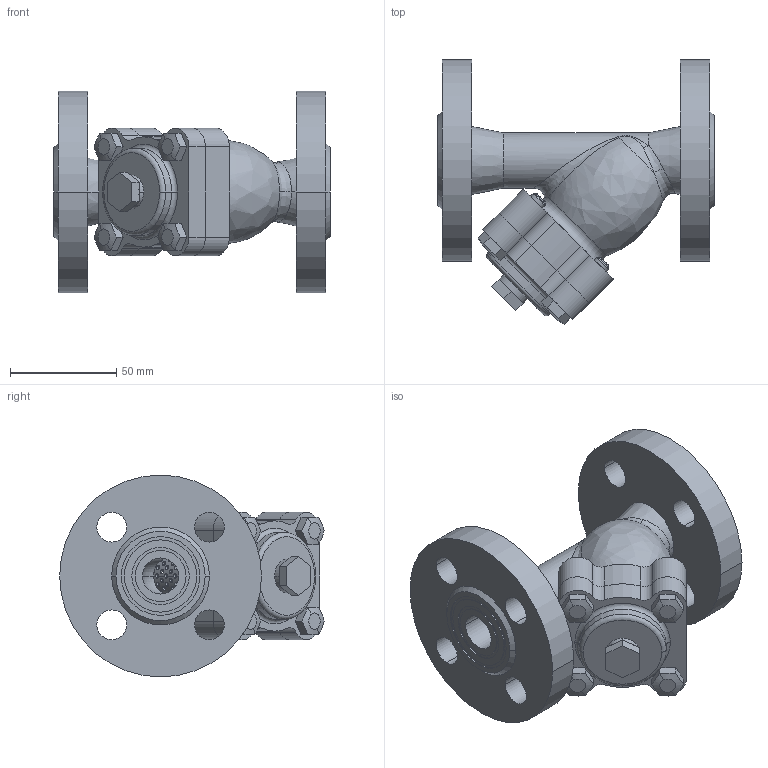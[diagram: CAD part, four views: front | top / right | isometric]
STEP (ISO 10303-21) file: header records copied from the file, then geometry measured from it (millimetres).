
FILE_DESCRIPTION((''),'2;1');
FILE_NAME('YS-16F_SB_ASM','2026-04-28T',('user'),(''),'PRO/ENGINEER BY PARAMETRIC TECHNOLOGY CORPORATION, 2011220','PRO/ENGINEER BY PARAMETRIC TECHNOLOGY CORPORATION, 2011220','');
FILE_SCHEMA(('CONFIG_CONTROL_DESIGN'));
Products named in the file (8): YS-16F_KORPUS; YS-16F_SETKA; YS-16F_KRISKA; B-7798-M8-30; YS-16F_PROKLADKA; YS-16F_PROKLADKA_2; YS-16F_PROBKA; YS-16F_SB_ASM
Assembly tree (10 placements, depth 2):
  YS-16F_SB_ASM
    YS-16F_KORPUS
    YS-16F_SETKA
    YS-16F_KRISKA
    B-7798-M8-30  x4
    YS-16F_PROKLADKA
    YS-16F_PROKLADKA_2
    YS-16F_PROBKA
Bounding box: 130 x 124.59 x 95 mm (x, y, z)
Volume: 333569.6 mm3; surface area: 106564.7 mm2
Topology: 10 solids, 19 shells, 1112 faces, 3290 edges, 2181 vertices
Faces by surface type: cylinder 970, plane 83, cone 26, torus 20, bspline 13
Entity records: 56323 total; most frequent: CARTESIAN_POINT 29307, ORIENTED_EDGE 6292, DIRECTION 3780, EDGE_CURVE 3158, VERTEX_POINT 2097, EDGE_LOOP 1913, B_SPLINE_CURVE_WITH_KNOTS 1802, AXIS2_PLACEMENT_3D 1361
